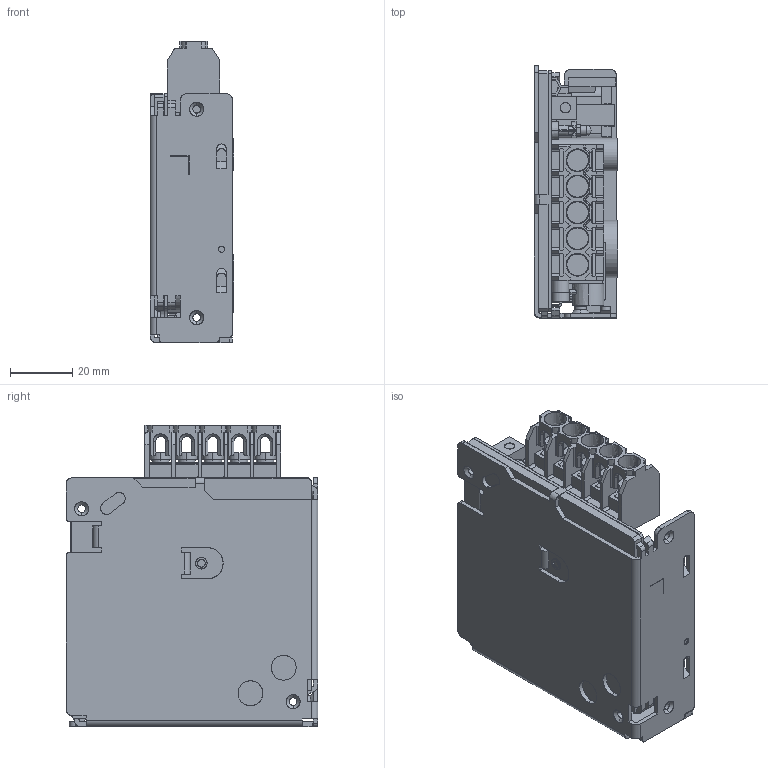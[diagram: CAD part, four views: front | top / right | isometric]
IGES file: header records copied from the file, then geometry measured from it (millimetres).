
Start section: SolidWorks IGES file using analytic representation for surfaces
Global section: file name: C:\hws15a_outline.IGS; native system: SolidWorks 2013; preprocessor: SolidWorks 2013; author: a008167; date: 140729.152451; units: millimetre
Bounding box: 27 x 81 x 96.8 mm (x, y, z)
Surface area: 43089.9 mm2 (no closed solid volume)
Topology: 0 solids, 0 shells, 1549 faces, 15975 edges, 15969 vertices
Faces by surface type: bspline 1056, revolution 493
